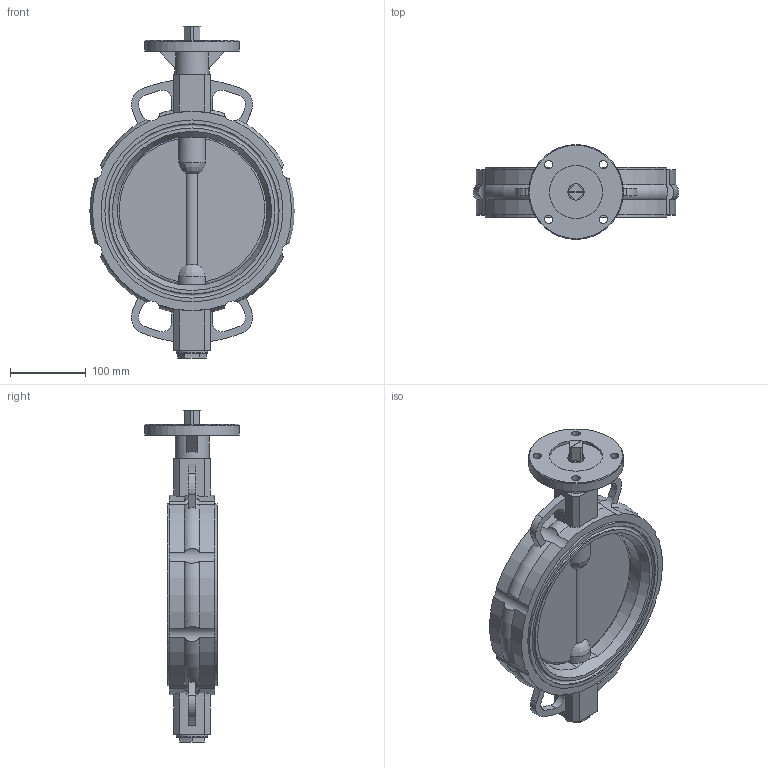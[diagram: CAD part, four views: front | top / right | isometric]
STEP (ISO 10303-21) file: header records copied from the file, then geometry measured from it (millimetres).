
FILE_DESCRIPTION( ( 'STEP AP214' ), '1' );
FILE_NAME( ' ', ' ', ( ' ' ), ( ' ' ), 'PSStep 13.0', 'VISI 18.0', ' ' );
FILE_SCHEMA( ( 'AUTOMOTIVE_DESIGN { 1 0 10303 214 1 1 1 1 }' ) );
Length unit declared in the file: millimetre
Products named in the file (1): 1
Bounding box: 270.93 x 125 x 438 mm (x, y, z)
Volume: 2355634 mm3; surface area: 277904.8 mm2
Topology: 1 solids, 3 shells, 194 faces, 553 edges, 369 vertices
Faces by surface type: plane 94, cylinder 75, torus 13, bspline 8, cone 4
Full cylindrical faces by diameter (mm): 11 x4, 21.3 x1, 41.2 x1, 45 x1, 70 x1, 125 x1, 219 x2, 230 x2, 240 x2
Entity records: 11063 total; most frequent: CARTESIAN_POINT 4535, ORIENTED_EDGE 1046, DIRECTION 1022, EDGE_CURVE 523, AXIS2_PLACEMENT_3D 398, VERTEX_POINT 361, EDGE_LOOP 236, LINE 226
